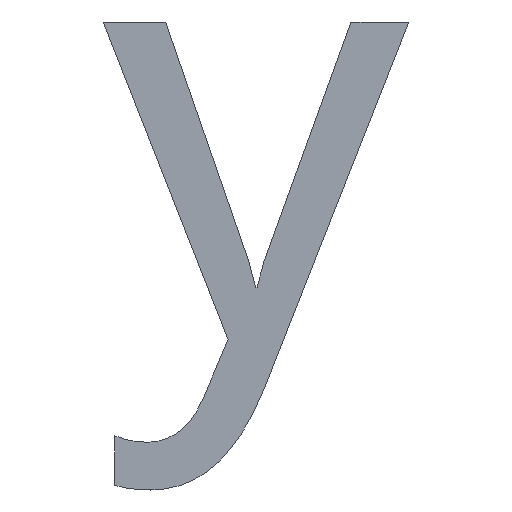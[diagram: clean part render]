
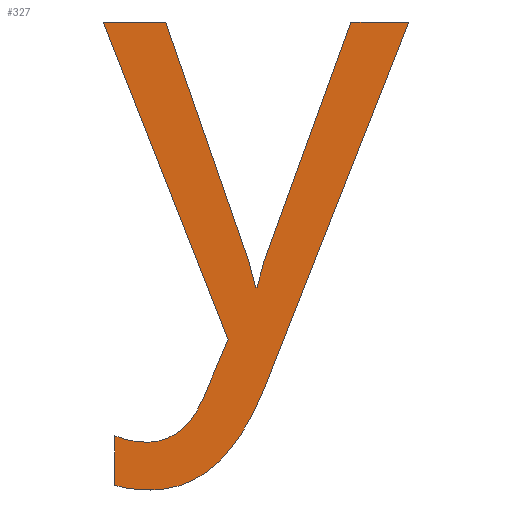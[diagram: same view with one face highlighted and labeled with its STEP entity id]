
A CAD part, top view. The second image highlights one B-rep face of the part: STEP entity #327.
In plain terms, the highlighted planar face has unit normal (0, 0, 1).
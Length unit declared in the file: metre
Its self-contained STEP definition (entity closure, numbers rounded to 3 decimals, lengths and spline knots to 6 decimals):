
#22=B_SPLINE_CURVE_WITH_KNOTS('',3,(#584,#585,#586,#587),.UNSPECIFIED.,
 .F.,.F.,(4,4),(12.,13.),.UNSPECIFIED.);
#23=B_SPLINE_CURVE_WITH_KNOTS('',3,(#601,#602,#603,#604),.UNSPECIFIED.,
 .F.,.F.,(4,4),(5.,6.),.UNSPECIFIED.);
#24=B_SPLINE_CURVE_WITH_KNOTS('',3,(#606,#607,#608,#609),.UNSPECIFIED.,
 .F.,.F.,(4,4),(4.,5.),.UNSPECIFIED.);
#25=B_SPLINE_CURVE_WITH_KNOTS('',3,(#613,#614,#615,#616),.UNSPECIFIED.,
 .F.,.F.,(4,4),(2.,3.),.UNSPECIFIED.);
#26=B_SPLINE_CURVE_WITH_KNOTS('',3,(#618,#619,#620,#621),.UNSPECIFIED.,
 .F.,.F.,(4,4),(1.,2.),.UNSPECIFIED.);
#42=ORIENTED_EDGE('',*,*,#132,.T.);
#43=ORIENTED_EDGE('',*,*,#133,.T.);
#44=ORIENTED_EDGE('',*,*,#134,.T.);
#45=ORIENTED_EDGE('',*,*,#135,.T.);
#46=ORIENTED_EDGE('',*,*,#136,.T.);
#47=ORIENTED_EDGE('',*,*,#137,.T.);
#48=ORIENTED_EDGE('',*,*,#138,.T.);
#49=ORIENTED_EDGE('',*,*,#139,.T.);
#50=ORIENTED_EDGE('',*,*,#140,.T.);
#51=ORIENTED_EDGE('',*,*,#141,.T.);
#52=ORIENTED_EDGE('',*,*,#142,.T.);
#53=ORIENTED_EDGE('',*,*,#143,.T.);
#54=ORIENTED_EDGE('',*,*,#144,.T.);
#55=ORIENTED_EDGE('',*,*,#145,.T.);
#56=ORIENTED_EDGE('',*,*,#146,.T.);
#132=EDGE_CURVE('',#177,#178,#202,.T.);
#133=EDGE_CURVE('',#178,#179,#203,.T.);
#134=EDGE_CURVE('',#179,#180,#22,.T.);
#135=EDGE_CURVE('',#180,#181,#204,.T.);
#136=EDGE_CURVE('',#181,#182,#205,.T.);
#137=EDGE_CURVE('',#182,#183,#206,.T.);
#138=EDGE_CURVE('',#183,#184,#207,.T.);
#139=EDGE_CURVE('',#184,#185,#208,.T.);
#140=EDGE_CURVE('',#185,#186,#209,.T.);
#141=EDGE_CURVE('',#186,#187,#23,.T.);
#142=EDGE_CURVE('',#187,#188,#24,.T.);
#143=EDGE_CURVE('',#188,#189,#210,.T.);
#144=EDGE_CURVE('',#189,#190,#25,.T.);
#145=EDGE_CURVE('',#190,#191,#26,.T.);
#146=EDGE_CURVE('',#191,#177,#211,.T.);
#177=VERTEX_POINT('',#580);
#178=VERTEX_POINT('',#581);
#179=VERTEX_POINT('',#583);
#180=VERTEX_POINT('',#588);
#181=VERTEX_POINT('',#590);
#182=VERTEX_POINT('',#592);
#183=VERTEX_POINT('',#594);
#184=VERTEX_POINT('',#596);
#185=VERTEX_POINT('',#598);
#186=VERTEX_POINT('',#600);
#187=VERTEX_POINT('',#605);
#188=VERTEX_POINT('',#610);
#189=VERTEX_POINT('',#612);
#190=VERTEX_POINT('',#617);
#191=VERTEX_POINT('',#622);
#202=LINE('',#579,#237);
#203=LINE('',#582,#238);
#204=LINE('',#589,#239);
#205=LINE('',#591,#240);
#206=LINE('',#593,#241);
#207=LINE('',#595,#242);
#208=LINE('',#597,#243);
#209=LINE('',#599,#244);
#210=LINE('',#611,#245);
#211=LINE('',#623,#246);
#237=VECTOR('',#486,1.);
#238=VECTOR('',#487,1.);
#239=VECTOR('',#488,1.);
#240=VECTOR('',#489,1.);
#241=VECTOR('',#490,1.);
#242=VECTOR('',#491,1.);
#243=VECTOR('',#492,1.);
#244=VECTOR('',#493,1.);
#245=VECTOR('',#494,1.);
#246=VECTOR('',#495,1.);
#263=EDGE_LOOP('',(#42,#43,#44,#45,#46,#47,#48,#49,#50,#51,#52,#53,#54,
#55,#56));
#280=FACE_BOUND('',#263,.T.);
#297=PLANE('',#459);
#327=ADVANCED_FACE('',(#280),#297,.T.);
#459=AXIS2_PLACEMENT_3D('',#578,#484,#485);
#484=DIRECTION('',(0.,0.,1.));
#485=DIRECTION('',(1.,0.,0.));
#486=DIRECTION('',(-1.,0.,0.));
#487=DIRECTION('',(-0.341,-0.94,0.));
#488=DIRECTION('',(-1.,0.,0.));
#489=DIRECTION('',(-0.252,0.968,0.));
#490=DIRECTION('',(-0.328,0.945,0.));
#491=DIRECTION('',(-1.,0.,0.));
#492=DIRECTION('',(0.366,-0.931,0.));
#493=DIRECTION('',(-0.39,-0.921,0.));
#494=DIRECTION('',(0.,-1.,0.));
#495=DIRECTION('',(0.367,0.93,0.));
#578=CARTESIAN_POINT('',(-0.062994,-0.008542,0.024401));
#579=CARTESIAN_POINT('',(-0.062753,-0.007754,0.024401));
#580=CARTESIAN_POINT('',(-0.06265,-0.007754,0.024401));
#581=CARTESIAN_POINT('',(-0.062753,-0.007754,0.024401));
#582=CARTESIAN_POINT('',(-0.062908,-0.00818,0.024401));
#583=CARTESIAN_POINT('',(-0.062908,-0.00818,0.024401));
#584=CARTESIAN_POINT('',(-0.062908,-0.00818,0.024401));
#585=CARTESIAN_POINT('',(-0.062914,-0.0082,0.024401));
#586=CARTESIAN_POINT('',(-0.062918,-0.008215,0.024401));
#587=CARTESIAN_POINT('',(-0.06292,-0.008226,0.024401));
#588=CARTESIAN_POINT('',(-0.06292,-0.008226,0.024401));
#589=CARTESIAN_POINT('',(-0.062923,-0.008226,0.024401));
#590=CARTESIAN_POINT('',(-0.062923,-0.008226,0.024401));
#591=CARTESIAN_POINT('',(-0.062935,-0.008179,0.024401));
#592=CARTESIAN_POINT('',(-0.062935,-0.008179,0.024401));
#593=CARTESIAN_POINT('',(-0.063083,-0.007754,0.024401));
#594=CARTESIAN_POINT('',(-0.063083,-0.007754,0.024401));
#595=CARTESIAN_POINT('',(-0.063194,-0.007754,0.024401));
#596=CARTESIAN_POINT('',(-0.063194,-0.007754,0.024401));
#597=CARTESIAN_POINT('',(-0.062972,-0.008319,0.024401));
#598=CARTESIAN_POINT('',(-0.062972,-0.008319,0.024401));
#599=CARTESIAN_POINT('',(-0.063015,-0.008422,0.024401));
#600=CARTESIAN_POINT('',(-0.063015,-0.008422,0.024401));
#601=CARTESIAN_POINT('',(-0.063015,-0.008422,0.024401));
#602=CARTESIAN_POINT('',(-0.063038,-0.008475,0.024401));
#603=CARTESIAN_POINT('',(-0.063072,-0.008502,0.024401));
#604=CARTESIAN_POINT('',(-0.063117,-0.008502,0.024401));
#605=CARTESIAN_POINT('',(-0.063117,-0.008502,0.024401));
#606=CARTESIAN_POINT('',(-0.063117,-0.008502,0.024401));
#607=CARTESIAN_POINT('',(-0.063135,-0.008502,0.024401));
#608=CARTESIAN_POINT('',(-0.063154,-0.008498,0.024401));
#609=CARTESIAN_POINT('',(-0.063174,-0.00849,0.024401));
#610=CARTESIAN_POINT('',(-0.063174,-0.00849,0.024401));
#611=CARTESIAN_POINT('',(-0.063174,-0.008579,0.024401));
#612=CARTESIAN_POINT('',(-0.063174,-0.008579,0.024401));
#613=CARTESIAN_POINT('',(-0.063174,-0.008579,0.024401));
#614=CARTESIAN_POINT('',(-0.063156,-0.008584,0.024401));
#615=CARTESIAN_POINT('',(-0.063134,-0.008587,0.024401));
#616=CARTESIAN_POINT('',(-0.06311,-0.008587,0.024401));
#617=CARTESIAN_POINT('',(-0.06311,-0.008587,0.024401));
#618=CARTESIAN_POINT('',(-0.06311,-0.008587,0.024401));
#619=CARTESIAN_POINT('',(-0.063023,-0.008587,0.024401));
#620=CARTESIAN_POINT('',(-0.062955,-0.008526,0.024401));
#621=CARTESIAN_POINT('',(-0.062907,-0.008406,0.024401));
#622=CARTESIAN_POINT('',(-0.062907,-0.008406,0.024401));
#623=CARTESIAN_POINT('',(-0.06265,-0.007754,0.024401));
